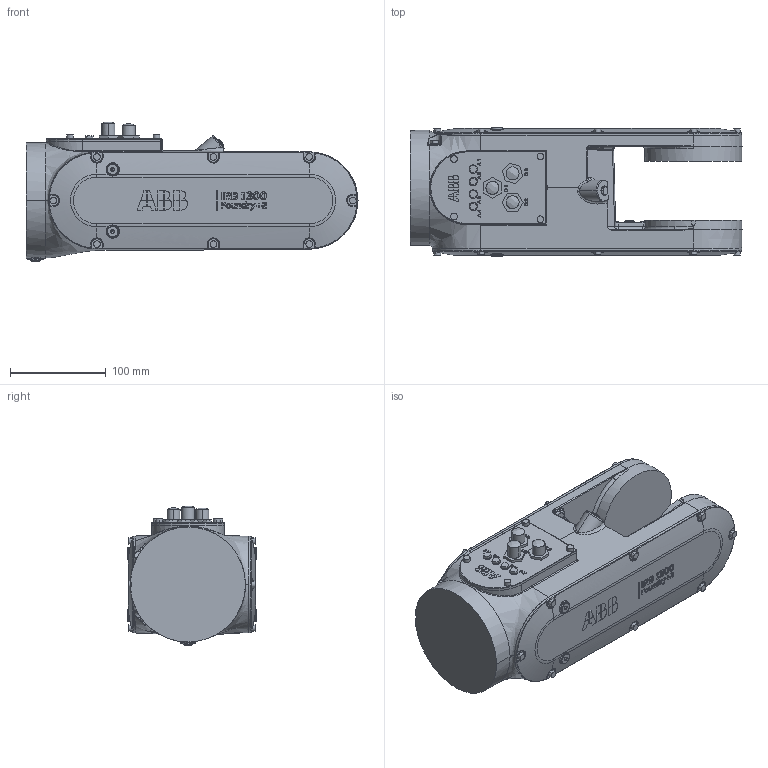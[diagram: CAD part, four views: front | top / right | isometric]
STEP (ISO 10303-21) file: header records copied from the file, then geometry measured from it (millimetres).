
FILE_DESCRIPTION (( 'STEP AP214' ), '1' );
FILE_NAME ('IRB1300 Type A_11Kg-900-Foundry-BTM_OC_00_link4.STEP', '2026-05-19T12:55:17', ( '' ), ( '' ), 'SwSTEP 2.0', 'SolidWorks 2024', '' );
FILE_SCHEMA (( 'AUTOMOTIVE_DESIGN' ));
Length unit declared in the file: millimetre
Products named in the file (1): IRB1300 Type A_11Kg-900-Foundry-BTM_OC_00_link4
Bounding box: 346.36 x 134.5 x 145.73 mm (x, y, z)
Volume: 3552450 mm3; surface area: 193370.7 mm2
Topology: 1 solids, 1 shells, 1758 faces, 4469 edges, 2839 vertices
Faces by surface type: plane 718, bspline 645, cylinder 214, torus 70, cone 68, sphere 43
Entity records: 81434 total; most frequent: CARTESIAN_POINT 43755, ORIENTED_EDGE 8894, DIRECTION 5584, EDGE_CURVE 4447, VERTEX_POINT 2839, VECTOR 2016, LINE 2016, EDGE_LOOP 1906
